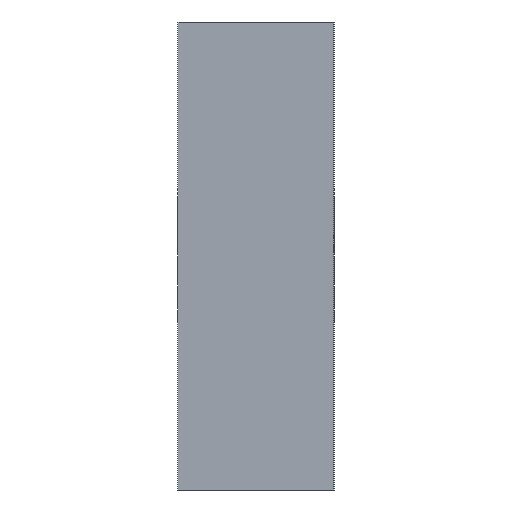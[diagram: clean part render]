
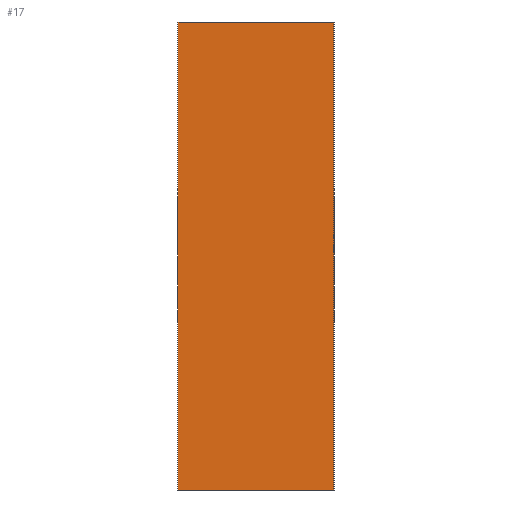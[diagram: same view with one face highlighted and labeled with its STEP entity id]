
A CAD part, left-side view. The second image highlights one B-rep face of the part: STEP entity #17.
In plain terms, the highlighted planar face has unit normal (-1, 0, 0).
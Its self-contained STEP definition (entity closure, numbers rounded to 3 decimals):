
#17 = ADVANCED_FACE('',(#18),#32,.F.);
#18 = FACE_BOUND('',#19,.F.);
#19 = EDGE_LOOP('',(#20,#55,#83,#111));
#20 = ORIENTED_EDGE('',*,*,#21,.F.);
#21 = EDGE_CURVE('',#22,#24,#26,.T.);
#22 = VERTEX_POINT('',#23);
#23 = CARTESIAN_POINT('',(-16.,-14.,-6.));
#24 = VERTEX_POINT('',#25);
#25 = CARTESIAN_POINT('',(-16.,-14.,6.));
#26 = SURFACE_CURVE('',#27,(#31,#43),.PCURVE_S1.);
#27 = LINE('',#28,#29);
#28 = CARTESIAN_POINT('',(-16.,-14.,-6.));
#29 = VECTOR('',#30,1.);
#30 = DIRECTION('',(0.,0.,1.));
#31 = PCURVE('',#32,#37);
#32 = PLANE('',#33);
#33 = AXIS2_PLACEMENT_3D('',#34,#35,#36);
#34 = CARTESIAN_POINT('',(-16.,-14.,-6.));
#35 = DIRECTION('',(1.,0.,0.));
#36 = DIRECTION('',(0.,0.,1.));
#37 = DEFINITIONAL_REPRESENTATION('',(#38),#42);
#38 = LINE('',#39,#40);
#39 = CARTESIAN_POINT('',(0.,0.));
#40 = VECTOR('',#41,1.);
#41 = DIRECTION('',(1.,0.));
#42 = ( GEOMETRIC_REPRESENTATION_CONTEXT(2) 
PARAMETRIC_REPRESENTATION_CONTEXT() REPRESENTATION_CONTEXT('2D SPACE',''
  ) );
#43 = PCURVE('',#44,#49);
#44 = PLANE('',#45);
#45 = AXIS2_PLACEMENT_3D('',#46,#47,#48);
#46 = CARTESIAN_POINT('',(-16.,-14.,-6.));
#47 = DIRECTION('',(0.,1.,0.));
#48 = DIRECTION('',(0.,0.,1.));
#49 = DEFINITIONAL_REPRESENTATION('',(#50),#54);
#50 = LINE('',#51,#52);
#51 = CARTESIAN_POINT('',(0.,0.));
#52 = VECTOR('',#53,1.);
#53 = DIRECTION('',(1.,0.));
#54 = ( GEOMETRIC_REPRESENTATION_CONTEXT(2) 
PARAMETRIC_REPRESENTATION_CONTEXT() REPRESENTATION_CONTEXT('2D SPACE',''
  ) );
#55 = ORIENTED_EDGE('',*,*,#56,.T.);
#56 = EDGE_CURVE('',#22,#57,#59,.T.);
#57 = VERTEX_POINT('',#58);
#58 = CARTESIAN_POINT('',(-16.,-10.,-6.));
#59 = SURFACE_CURVE('',#60,(#64,#71),.PCURVE_S1.);
#60 = LINE('',#61,#62);
#61 = CARTESIAN_POINT('',(-16.,-14.,-6.));
#62 = VECTOR('',#63,1.);
#63 = DIRECTION('',(0.,1.,0.));
#64 = PCURVE('',#32,#65);
#65 = DEFINITIONAL_REPRESENTATION('',(#66),#70);
#66 = LINE('',#67,#68);
#67 = CARTESIAN_POINT('',(0.,0.));
#68 = VECTOR('',#69,1.);
#69 = DIRECTION('',(0.,-1.));
#70 = ( GEOMETRIC_REPRESENTATION_CONTEXT(2) 
PARAMETRIC_REPRESENTATION_CONTEXT() REPRESENTATION_CONTEXT('2D SPACE',''
  ) );
#71 = PCURVE('',#72,#77);
#72 = PLANE('',#73);
#73 = AXIS2_PLACEMENT_3D('',#74,#75,#76);
#74 = CARTESIAN_POINT('',(-16.,-14.,-6.));
#75 = DIRECTION('',(0.,0.,1.));
#76 = DIRECTION('',(1.,0.,0.));
#77 = DEFINITIONAL_REPRESENTATION('',(#78),#82);
#78 = LINE('',#79,#80);
#79 = CARTESIAN_POINT('',(0.,0.));
#80 = VECTOR('',#81,1.);
#81 = DIRECTION('',(0.,1.));
#82 = ( GEOMETRIC_REPRESENTATION_CONTEXT(2) 
PARAMETRIC_REPRESENTATION_CONTEXT() REPRESENTATION_CONTEXT('2D SPACE',''
  ) );
#83 = ORIENTED_EDGE('',*,*,#84,.T.);
#84 = EDGE_CURVE('',#57,#85,#87,.T.);
#85 = VERTEX_POINT('',#86);
#86 = CARTESIAN_POINT('',(-16.,-10.,6.));
#87 = SURFACE_CURVE('',#88,(#92,#99),.PCURVE_S1.);
#88 = LINE('',#89,#90);
#89 = CARTESIAN_POINT('',(-16.,-10.,-6.));
#90 = VECTOR('',#91,1.);
#91 = DIRECTION('',(0.,0.,1.));
#92 = PCURVE('',#32,#93);
#93 = DEFINITIONAL_REPRESENTATION('',(#94),#98);
#94 = LINE('',#95,#96);
#95 = CARTESIAN_POINT('',(0.,-4.));
#96 = VECTOR('',#97,1.);
#97 = DIRECTION('',(1.,0.));
#98 = ( GEOMETRIC_REPRESENTATION_CONTEXT(2) 
PARAMETRIC_REPRESENTATION_CONTEXT() REPRESENTATION_CONTEXT('2D SPACE',''
  ) );
#99 = PCURVE('',#100,#105);
#100 = PLANE('',#101);
#101 = AXIS2_PLACEMENT_3D('',#102,#103,#104);
#102 = CARTESIAN_POINT('',(-16.,-10.,-6.));
#103 = DIRECTION('',(0.,1.,0.));
#104 = DIRECTION('',(0.,0.,1.));
#105 = DEFINITIONAL_REPRESENTATION('',(#106),#110);
#106 = LINE('',#107,#108);
#107 = CARTESIAN_POINT('',(0.,0.));
#108 = VECTOR('',#109,1.);
#109 = DIRECTION('',(1.,0.));
#110 = ( GEOMETRIC_REPRESENTATION_CONTEXT(2) 
PARAMETRIC_REPRESENTATION_CONTEXT() REPRESENTATION_CONTEXT('2D SPACE',''
  ) );
#111 = ORIENTED_EDGE('',*,*,#112,.F.);
#112 = EDGE_CURVE('',#24,#85,#113,.T.);
#113 = SURFACE_CURVE('',#114,(#118,#125),.PCURVE_S1.);
#114 = LINE('',#115,#116);
#115 = CARTESIAN_POINT('',(-16.,-14.,6.));
#116 = VECTOR('',#117,1.);
#117 = DIRECTION('',(0.,1.,0.));
#118 = PCURVE('',#32,#119);
#119 = DEFINITIONAL_REPRESENTATION('',(#120),#124);
#120 = LINE('',#121,#122);
#121 = CARTESIAN_POINT('',(12.,0.));
#122 = VECTOR('',#123,1.);
#123 = DIRECTION('',(0.,-1.));
#124 = ( GEOMETRIC_REPRESENTATION_CONTEXT(2) 
PARAMETRIC_REPRESENTATION_CONTEXT() REPRESENTATION_CONTEXT('2D SPACE',''
  ) );
#125 = PCURVE('',#126,#131);
#126 = PLANE('',#127);
#127 = AXIS2_PLACEMENT_3D('',#128,#129,#130);
#128 = CARTESIAN_POINT('',(-16.,-14.,6.));
#129 = DIRECTION('',(0.,0.,1.));
#130 = DIRECTION('',(1.,0.,0.));
#131 = DEFINITIONAL_REPRESENTATION('',(#132),#136);
#132 = LINE('',#133,#134);
#133 = CARTESIAN_POINT('',(0.,0.));
#134 = VECTOR('',#135,1.);
#135 = DIRECTION('',(0.,1.));
#136 = ( GEOMETRIC_REPRESENTATION_CONTEXT(2) 
PARAMETRIC_REPRESENTATION_CONTEXT() REPRESENTATION_CONTEXT('2D SPACE',''
  ) );
